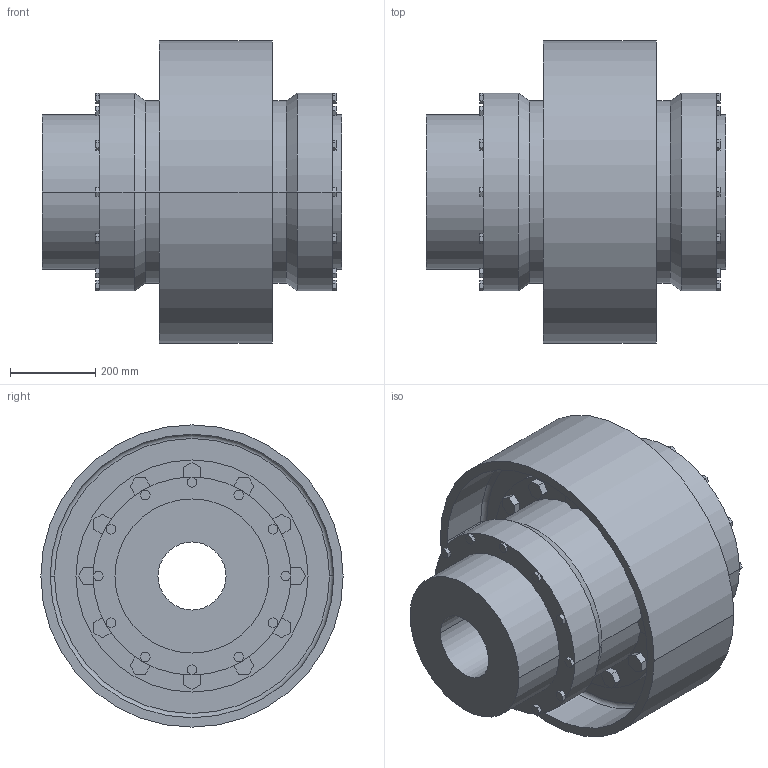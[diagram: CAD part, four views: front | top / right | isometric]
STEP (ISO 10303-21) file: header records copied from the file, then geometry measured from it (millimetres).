
FILE_DESCRIPTION((''),'2;1');
FILE_NAME('A19735300-0_ASM','2019-05-23T',('AB_Roschiwal'),('RENK AG'),'PRO/ENGINEER BY PARAMETRIC TECHNOLOGY CORPORATION, 2015440','PRO/ENGINEER BY PARAMETRIC TECHNOLOGY CORPORATION, 2015440','');
FILE_SCHEMA(('CONFIG_CONTROL_DESIGN'));
Length unit declared in the file: millimetre
Products named in the file (4): SBKD225_GEHAEUSE; SBKD225_NABE; SBKD225_BREMSSCHEIBE; A19735300-0_ASM
Assembly tree (4 placements, depth 2):
  A19735300-0_ASM
    SBKD225_GEHAEUSE
    SBKD225_NABE  x2
    SBKD225_BREMSSCHEIBE
Bounding box: 703 x 710 x 710 mm (x, y, z)
Volume: 90097107.3 mm3; surface area: 5004247.5 mm2
Topology: 4 solids, 4 shells, 474 faces, 1164 edges, 772 vertices
Faces by surface type: plane 370, cylinder 96, cone 4, torus 4
Entity records: 13708 total; most frequent: CARTESIAN_POINT 2366, ORIENTED_EDGE 2280, DIRECTION 2264, EDGE_CURVE 1140, VECTOR 956, LINE 956, VERTEX_POINT 756, AXIS2_PLACEMENT_3D 654
